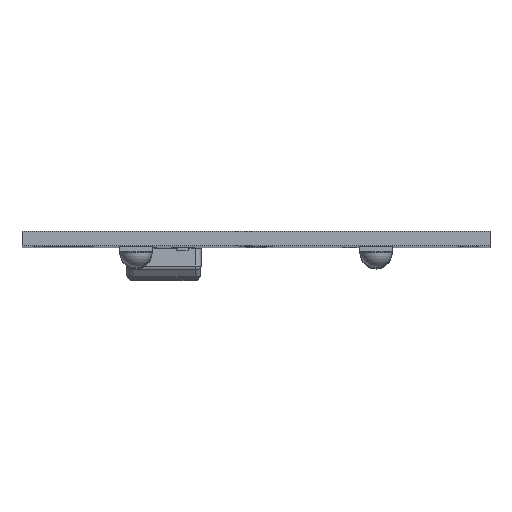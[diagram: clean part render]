
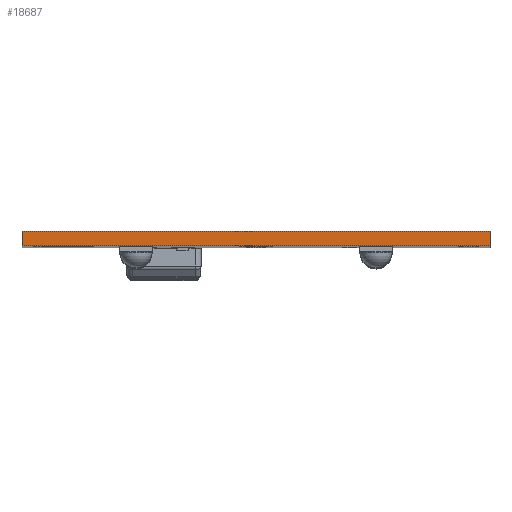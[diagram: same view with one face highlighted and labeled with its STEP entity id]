
A CAD part, top view. The second image highlights one B-rep face of the part: STEP entity #18687.
In plain terms, the highlighted planar face has unit normal (0, 0, 1).
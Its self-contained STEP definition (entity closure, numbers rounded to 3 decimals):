
#703=LINE('',#23850,#1995);
#915=LINE('',#24853,#2207);
#916=LINE('',#24855,#2208);
#917=LINE('',#24857,#2209);
#1995=VECTOR('',#20446,1000.);
#2207=VECTOR('',#20860,1000.);
#2208=VECTOR('',#20861,1000.);
#2209=VECTOR('',#20862,1000.);
#3648=ORIENTED_EDGE('',*,*,#7291,.F.);
#3649=ORIENTED_EDGE('',*,*,#7570,.F.);
#3650=ORIENTED_EDGE('',*,*,#7571,.T.);
#3651=ORIENTED_EDGE('',*,*,#7572,.T.);
#7291=EDGE_CURVE('',#9292,#9293,#703,.T.);
#7570=EDGE_CURVE('',#9536,#9292,#915,.T.);
#7571=EDGE_CURVE('',#9536,#9537,#916,.T.);
#7572=EDGE_CURVE('',#9537,#9293,#917,.T.);
#9292=VERTEX_POINT('',#23851);
#9293=VERTEX_POINT('',#23852);
#9536=VERTEX_POINT('',#24854);
#9537=VERTEX_POINT('',#24856);
#11057=EDGE_LOOP('',(#3648,#3649,#3650,#3651));
#11950=FACE_BOUND('',#11057,.T.);
#12774=PLANE('',#19522);
#18687=ADVANCED_FACE('',(#11950),#12774,.T.);
#19522=AXIS2_PLACEMENT_3D('',#24852,#20858,#20859);
#20446=DIRECTION('',(-1.,0.,0.));
#20858=DIRECTION('',(0.,0.,1.));
#20859=DIRECTION('',(1.,0.,0.));
#20860=DIRECTION('',(0.,-1.,0.));
#20861=DIRECTION('',(-1.,0.,0.));
#20862=DIRECTION('',(0.,-1.,0.));
#23850=CARTESIAN_POINT('',(-24.75,0.,60.7));
#23851=CARTESIAN_POINT('',(24.75,0.,60.7));
#23852=CARTESIAN_POINT('',(-24.75,0.,60.7));
#24852=CARTESIAN_POINT('',(-24.75,1.5,60.7));
#24853=CARTESIAN_POINT('',(24.75,1.5,60.7));
#24854=CARTESIAN_POINT('',(24.75,1.5,60.7));
#24855=CARTESIAN_POINT('',(-24.75,1.5,60.7));
#24856=CARTESIAN_POINT('',(-24.75,1.5,60.7));
#24857=CARTESIAN_POINT('',(-24.75,1.5,60.7));
